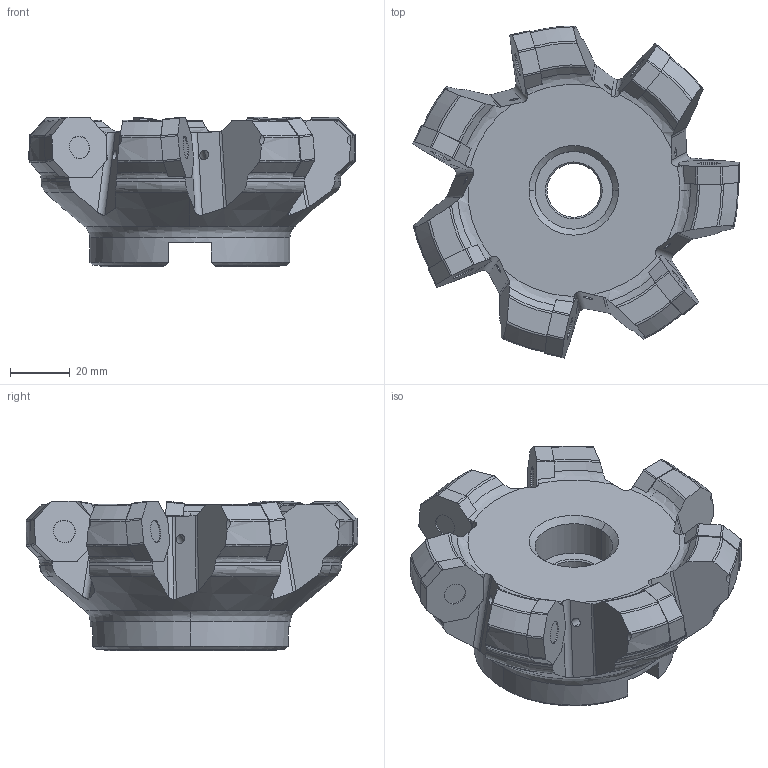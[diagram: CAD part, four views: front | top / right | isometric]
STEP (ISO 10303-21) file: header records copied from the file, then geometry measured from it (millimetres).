
FILE_DESCRIPTION (( 'STEP AP214' ), '1' );
FILE_NAME ('01-0604.STEP', '2022-08-16T22:41:32', ( '' ), ( '' ), 'SwSTEP 2.0', 'SolidWorks 2021', '' );
FILE_SCHEMA (( 'AUTOMOTIVE_DESIGN' ));
Length unit declared in the file: inch
Products named in the file (1): 01-0604
Bounding box: 109.4 x 111.11 x 50.01 mm (x, y, z)
Volume: 222311.9 mm3; surface area: 33901.9 mm2
Topology: 1 solids, 1 shells, 363 faces, 1063 edges, 704 vertices
Faces by surface type: cylinder 141, plane 130, bspline 55, cone 37
Entity records: 13802 total; most frequent: CARTESIAN_POINT 4887, ORIENTED_EDGE 2126, DIRECTION 1586, EDGE_CURVE 1063, VERTEX_POINT 704, AXIS2_PLACEMENT_3D 604, EDGE_LOOP 381, LINE 378
